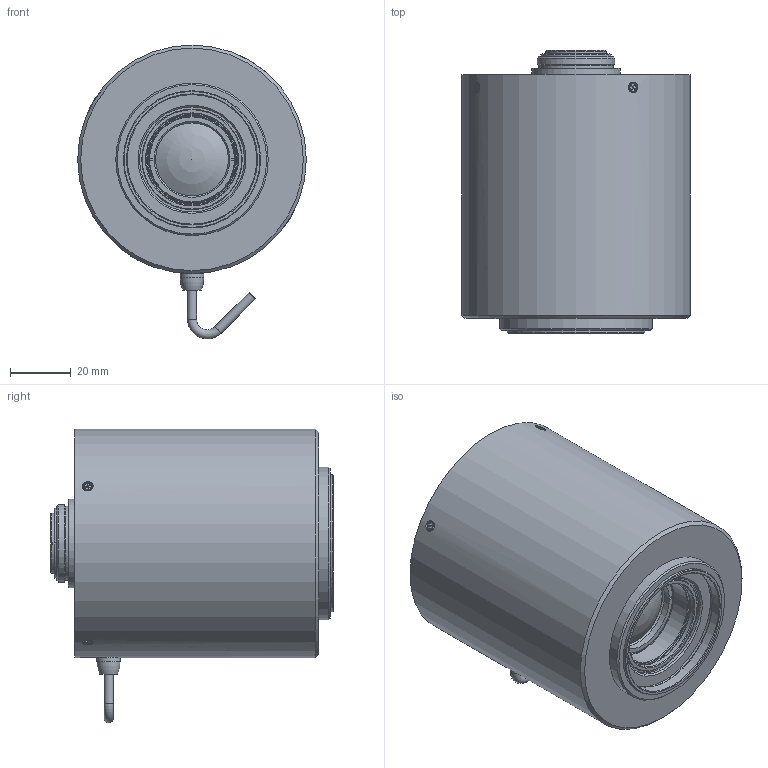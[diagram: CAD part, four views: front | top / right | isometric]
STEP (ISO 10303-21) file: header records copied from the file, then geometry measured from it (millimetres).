
FILE_DESCRIPTION(/* description */ ('Unknown'),/* implementation_level */ '2;1');
FILE_NAME(/* name */ 'VL7531U-MPZ_210607',/* time_stamp */ '2021-06-07T17:16:20+09:00',/* author */ ('Unknown'),/* organization */ ('Unknown'),/* preprocessor_version */ 'ST-DEVELOPER v16.7',/* originating_system */ 'DEX',/* authorisation */ $);
FILE_SCHEMA (('TECHNICAL_DATA_PACKAGING','AUTOMOTIVE_DESIGN {1 0 10303 214 3 1 1}'));
Length unit declared in the file: millimetre
Products named in the file (1): VL7531U-MPZ_210607
Bounding box: 75 x 92.81 x 96.4 mm (x, y, z)
Volume: 352374.4 mm3; surface area: 31907.9 mm2
Topology: 1 solids, 13 shells, 425 faces, 1058 edges, 703 vertices
Faces by surface type: plane 298, cylinder 81, cone 33, torus 11, sphere 2
Full cylindrical faces by diameter (mm): 1.7 x3, 1.8 x3, 2 x9, 2.2 x9, 3 x14, 3.5 x7, 3.6 x1, 4 x4, 7.699 x1, 16.6 x1, 19.8 x1, 20.7 x1, 23 x1, 23.9 x1, 24.4 x1, 24.904 x1, 25.4 x1, 29 x1, 29.004 x1, 30.001 x1, 30.501 x1, 32.976 x1, 34.4 x1, 42.5 x1, 43 x1, 44 x1, 45 x1, 50 x1, 75 x1
Entity records: 14678 total; most frequent: CARTESIAN_POINT 2144, DIRECTION 1921, ORIENTED_EDGE 1788, EDGE_CURVE 894, LINE 673, VECTOR 673, VERTEX_POINT 650, AXIS2_PLACEMENT_3D 624
